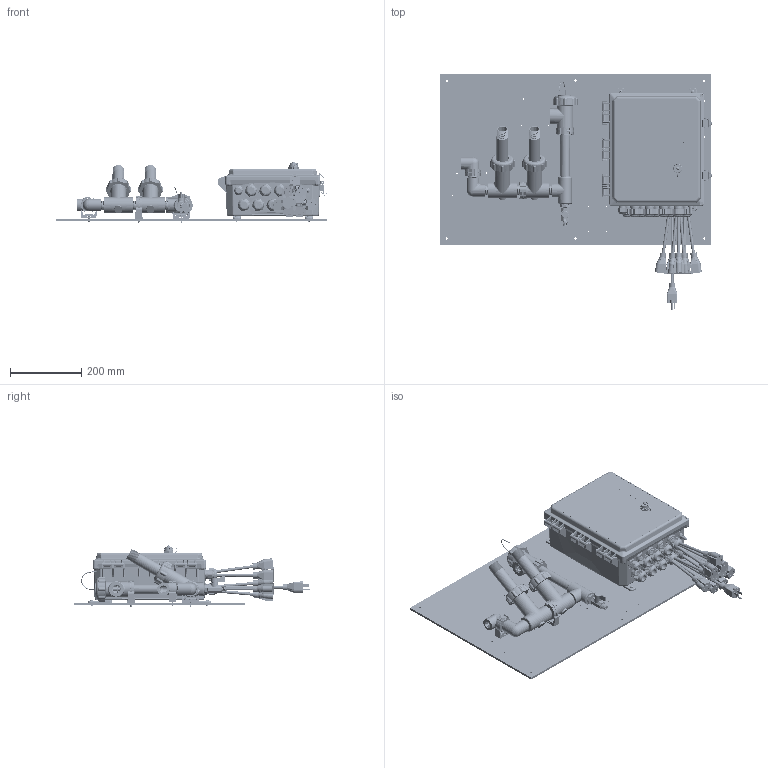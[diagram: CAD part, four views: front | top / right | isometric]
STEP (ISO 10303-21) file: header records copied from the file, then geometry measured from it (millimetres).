
FILE_DESCRIPTION (( 'STEP AP203' ), '1' );
FILE_NAME ('W900-CT-PFHNNN.STEP', '2019-04-24T18:20:13', ( '' ), ( '' ), 'SwSTEP 2.0', 'SolidWorks 2019', '' );
FILE_SCHEMA (( 'CONFIG_CONTROL_DESIGN' ));
Length unit declared in the file: inch
Products named in the file (50): SHELL-191652; SHELL-102986; 102903_102903; SHELL-102061; SHELL-103859_Cord1; SHELL-102884wo; 102961ws; SHELL-102938; SHELL-190996; 102906; SHELL-102381_4880K345; W900 Shell; SHELL-102881; W900-CT-PFHNNN Manifold; IMS0005; 103860_Cord1; IMS0013; SHELL-102961_30075T212; SHELL-102423; SHELL-102882; W900-CT-PFHNNN; SHELL-103283-FT; SHELL-191020-XX; 103861; IMS0012; SHELL-103886_98273A320; 192606-PIN; SHELL-102919; IMS0035_91500A537; SHELL-102586; ISA0006; SHELL-103515; SHELL-WEL-XXX-NN; SHELL-102594; SHELL-103893_91772A829; Flow Switch Assembly; SHELL-103425_4882K14; SHELL-102377_30075T211; SHELL-103778; SHELL-102880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
Assembly tree (90 placements, depth 6):
  W900-CT-PFHNNN
    SHELL-102938
    W900 Shell
      W900 Shell
      SHELL-103283-FT  x4
      IMS0035_91500A537  x4
      SHELL-103893_91772A829  x4
      ISA0006
        102907
        102903_102903
        102906
        103860_Cord1  x3
        103861
      ISA0006
        102907
        102903_102903
        102906
        103860_Cord1  x3
        103861
      ISA0006
        102907
        102903_102903
        102906
        103860_Cord1  x3
        103861
      SHELL-103859_Cord1
    102961ws
      SHELL-102961_30075T212
      SHELL-103886_98273A320
    SHELL-102377ws
      SHELL-103886_98273A320
      SHELL-102377_30075T211
    102961ws
      SHELL-102961_30075T212
      SHELL-103886_98273A320
    W900-CT-PFHNNN Manifold
      Flow Switch Assembly
        SHELL-102881
        SHELL-191020-XX
          SHELL-102882
          SHELL-102919
          SHELL-102594
          SHELL-190996
            SHELL-102880
            SHELL-102986  x2
          IMS0005
        SHELL-102586
      SHELL-102926
      SHELL-102061
      SHELL-102381_4880K345
      SHELL-103515
        IMS0013
        IMS0012
      SHELL-103425_4882K14  x4
      SHELL-102884wo
        SHELL-102884
        SHELL-102594
      SHELL-102884wo
        SHELL-102884
        SHELL-102594
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Bounding box: 764.69 x 665.28 x 171.79 mm (x, y, z)
Volume: 5363839.7 mm3; surface area: 2292580.7 mm2
Topology: 121 solids, 121 shells, 18020 faces, 47526 edges, 29877 vertices
Faces by surface type: plane 7755, cylinder 5295, bspline 3249, cone 1145, torus 477, sphere 99
Entity records: 657910 total; most frequent: CARTESIAN_POINT 338489, ORIENTED_EDGE 74846, DIRECTION 52411, EDGE_CURVE 37423, VERTEX_POINT 23541, AXIS2_PLACEMENT_3D 18071, LINE 16269, VECTOR 16269
